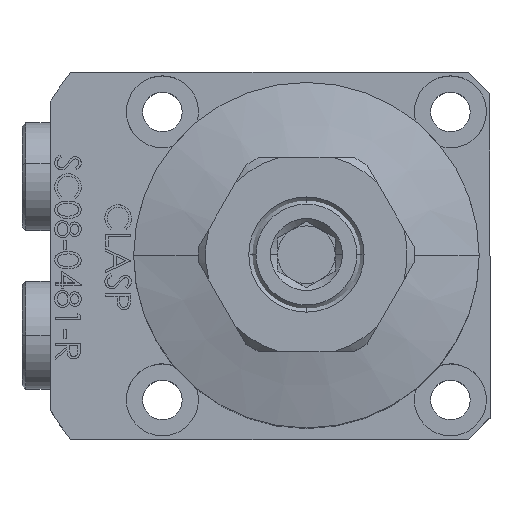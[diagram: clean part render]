
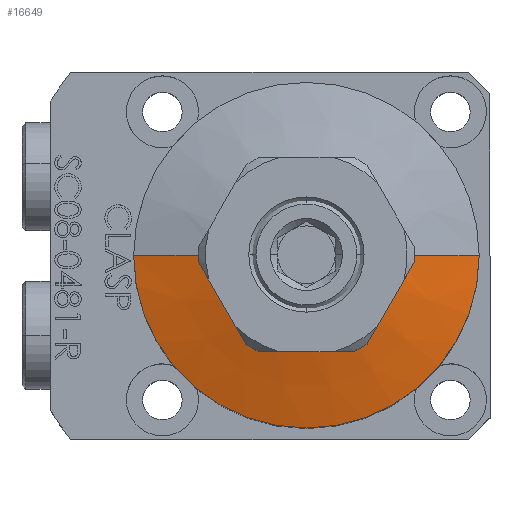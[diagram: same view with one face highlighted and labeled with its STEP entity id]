
A CAD part, top view. The second image highlights one B-rep face of the part: STEP entity #16649.
In plain terms, the highlighted conical face has half-angle 75 degrees and reference radius 60 mm.
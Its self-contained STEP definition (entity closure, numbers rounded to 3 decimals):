
#1175 = DIRECTION ( 'NONE',  ( 0., 0., -1. ) ) ;
#1789 = CARTESIAN_POINT ( 'NONE',  ( 12.5, 0., 80. ) ) ;
#2416 = VECTOR ( 'NONE', #5405, 1000. ) ;
#2593 = CONICAL_SURFACE ( 'NONE', #10651, 60., 1.309 ) ;
#3172 = CARTESIAN_POINT ( 'NONE',  ( 0., 0., 80. ) ) ;
#3173 = ORIENTED_EDGE ( 'NONE', *, *, #17894, .F. ) ;
#3181 = CARTESIAN_POINT ( 'NONE',  ( -24., 0., 76.919 ) ) ;
#3487 = CARTESIAN_POINT ( 'NONE',  ( -12.5, 0., 80. ) ) ;
#3700 = EDGE_CURVE ( 'NONE', #9499, #4446, #4600, .T. ) ;
#4446 = VERTEX_POINT ( 'NONE', #16060 ) ;
#4535 = CARTESIAN_POINT ( 'NONE',  ( 0., 0., 76.919 ) ) ;
#4575 = DIRECTION ( 'NONE',  ( 1., 0., 0. ) ) ;
#4600 = CIRCLE ( 'NONE', #15269, 24. ) ;
#5300 = DIRECTION ( 'NONE',  ( -1., 0., 0. ) ) ;
#5405 = DIRECTION ( 'NONE',  ( -0.966, 0., -0.259 ) ) ;
#5788 = VECTOR ( 'NONE', #17454, 1000. ) ;
#5972 = DIRECTION ( 'NONE',  ( -1., 0., 0. ) ) ;
#6147 = LINE ( 'NONE', #6322, #2416 ) ;
#6322 = CARTESIAN_POINT ( 'NONE',  ( -60., 0., 67.272 ) ) ;
#6580 = VERTEX_POINT ( 'NONE', #3487 ) ;
#6717 = CARTESIAN_POINT ( 'NONE',  ( 0., 0., 67.272 ) ) ;
#8117 = EDGE_CURVE ( 'NONE', #6580, #11630, #13384, .T. ) ;
#8506 = ORIENTED_EDGE ( 'NONE', *, *, #3700, .T. ) ;
#9292 = EDGE_CURVE ( 'NONE', #6580, #9499, #6147, .T. ) ;
#9499 = VERTEX_POINT ( 'NONE', #3181 ) ;
#10651 = AXIS2_PLACEMENT_3D ( 'NONE', #6717, #1175, #5300 ) ;
#11353 = FACE_OUTER_BOUND ( 'NONE', #16980, .T. ) ;
#11630 = VERTEX_POINT ( 'NONE', #1789 ) ;
#12967 = DIRECTION ( 'NONE',  ( 0., 0., 1. ) ) ;
#13384 = CIRCLE ( 'NONE', #16139, 12.5 ) ;
#14260 = ORIENTED_EDGE ( 'NONE', *, *, #8117, .F. ) ;
#14350 = DIRECTION ( 'NONE',  ( 0., 0., 1. ) ) ;
#14483 = ORIENTED_EDGE ( 'NONE', *, *, #9292, .T. ) ;
#15269 = AXIS2_PLACEMENT_3D ( 'NONE', #4535, #14350, #5972 ) ;
#15895 = CARTESIAN_POINT ( 'NONE',  ( 60., 0., 67.272 ) ) ;
#16060 = CARTESIAN_POINT ( 'NONE',  ( 24., 0., 76.919 ) ) ;
#16139 = AXIS2_PLACEMENT_3D ( 'NONE', #3172, #12967, #4575 ) ;
#16649 = ADVANCED_FACE ( 'NONE', ( #11353 ), #2593, .T. ) ;
#16980 = EDGE_LOOP ( 'NONE', ( #3173, #14260, #14483, #8506 ) ) ;
#16994 = LINE ( 'NONE', #15895, #5788 ) ;
#17454 = DIRECTION ( 'NONE',  ( 0.966, 0., -0.259 ) ) ;
#17894 = EDGE_CURVE ( 'NONE', #11630, #4446, #16994, .T. ) ;
